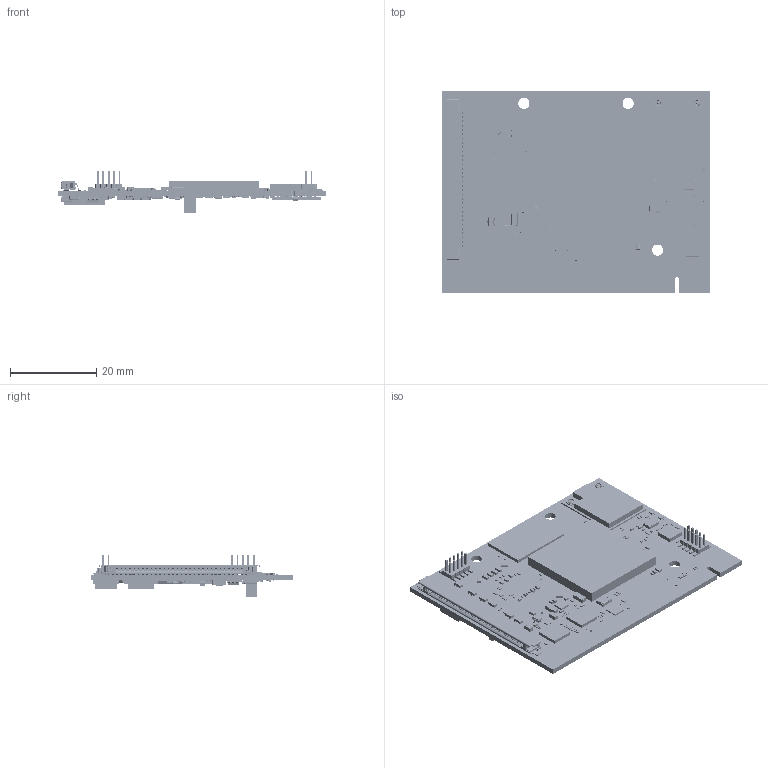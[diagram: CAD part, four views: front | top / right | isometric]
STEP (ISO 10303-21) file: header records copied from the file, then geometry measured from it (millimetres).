
FILE_DESCRIPTION(/* description */ ('PCB Design'),/* implementation_level */ '2;1');
FILE_NAME(/* name */ 'EFUSMX8X_REV110_3D',/* time_stamp */ '2024-07-09T16:53:37+02:00',/* author */ (''),/* organization */ (''),/* preprocessor_version */ 'ST-DEVELOPER v16',/* originating_system */ 'allegro_23.1S003',/* authorisation */ '');
FILE_SCHEMA (('AUTOMOTIVE_DESIGN { 1 0 10303 214 3 1 1 }'));
Products named in the file (160): EFUSMX8X_REV110_3D; BOARD_OUTLINE; COMPONENTS; BGA609-05656M-21X21; BGA200-065M-DDR4-10X15; MODULE96-AW-CM276NF-12X16M; QFN40-04M-5X5-FS; BGA153-05M-INAND-1105X13; J-1MMD-30P-FI-X30S-HF; QFN40P300X300X33; OSCSD-2X102M; DFN2626-10; QFN56-05M-8X8-FS-4EPAD; HG1-PR190D102; SOP8-WSON-6X8MM; FM40SR80-SIS; GF-EFUS1; J-B2B-5X2-127MM-WR-PHD; RN8DS12-0402; RN8DS18-0402; SOT23-5; XTALD-4-302X205M; C0402; R0402; L0402; C0603; L0806; C04502; C0201; SOT323-GDS; R0201; SOT23-6; SOT23-GDS; XTALSD-2-302X105MM; SOP8-MFF2-5X6; LED0603_0402; L0805; QFN24-05M-4X4-FS; QFN12-04M-2X107; SOT323-132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
Assembly tree (589 placements, depth 5):
  EFUSMX8X_REV110_3D
    BOARD_OUTLINE
    COMPONENTS
      BGA609-05656M-21X21
      BGA200-065M-DDR4-10X15
        1
      MODULE96-AW-CM276NF-12X16M
        module96-aw-cm276nf-12x16m
          20579-001EC RECE ASSY STEP R1 ALL  x2
          Platine
          Schirm
      QFN40-04M-5X5-FS  x2
        User_Library-QFN_40_5x5
      BGA153-05M-INAND-1105X13
        BGA153-05M-INAND-1105X13
          Component1
          Component3
          Component4
          Component5
          Component6
          Component7
          Component8
          Component9
          Component10
          Component11
          Component12
          Component13
          Component14
          Component15
          Component16
          Component17
          Component18
          Component19
          Component20
          Component21
          Component22
          Component23
          Component24
          Component25
          Component26
          Component27
          Component28
          Component29
          Component30
          Component31
          Component32
          Component33
          Component34
          Component35
          Component36
          Component37
          Component38
          Component39
          Component40
          Component41
          Component42
          Component43
          Component44
          Component45
          Component46
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Bounding box: 62.11 x 47 x 9.53 mm (x, y, z)
Volume: 1028.4 mm3; surface area: 12283.6 mm2
Topology: 668 solids, 676 shells, 24856 faces, 62066 edges, 36733 vertices
Faces by surface type: plane 15538, cylinder 6461, sphere 2636, bspline 147, torus 40, cone 34
Entity records: 246242 total; most frequent: CARTESIAN_POINT 41659, DIRECTION 31831, ORIENTED_EDGE 29120, EDGE_CURVE 14569, VECTOR 13655, LINE 13655, VERTEX_POINT 9625, AXIS2_PLACEMENT_3D 9618
